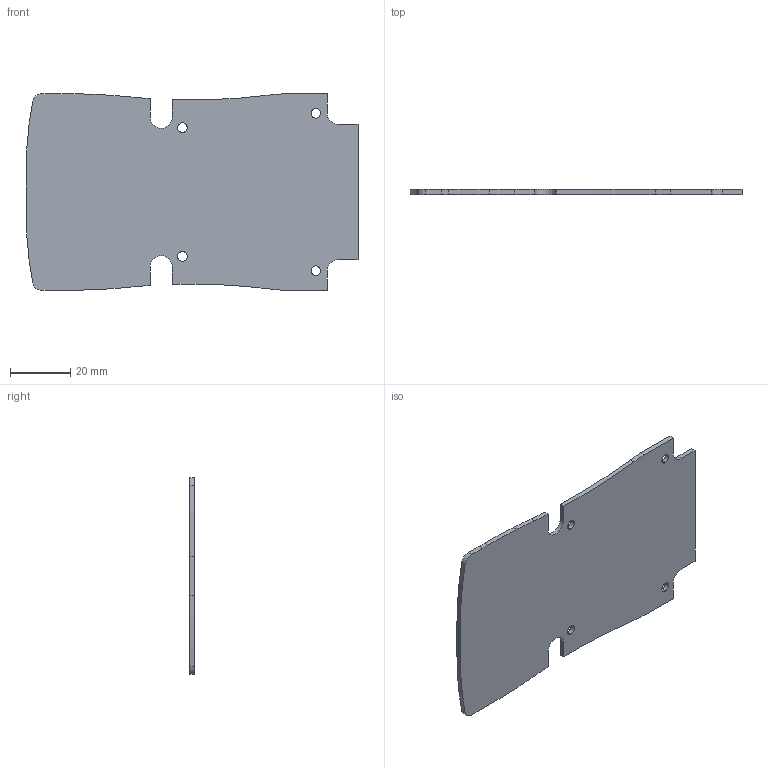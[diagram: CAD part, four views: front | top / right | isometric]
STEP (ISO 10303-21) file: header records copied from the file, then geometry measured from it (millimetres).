
FILE_DESCRIPTION (( 'STEP AP214' ), '1' );
FILE_NAME ('VM-24C-PCB.STEP', '2025-03-26T16:54:51', ( '' ), ( '' ), 'SwSTEP 2.0', 'SolidWorks 2025', '' );
FILE_SCHEMA (( 'AUTOMOTIVE_DESIGN' ));
Length unit declared in the file: inch
Products named in the file (1): VM-24C-PCB
Bounding box: 110.59 x 1.6 x 65.48 mm (x, y, z)
Volume: 10653.9 mm3; surface area: 13979.6 mm2
Topology: 1 solids, 1 shells, 45 faces, 129 edges, 86 vertices
Faces by surface type: cylinder 29, plane 16
Entity records: 1544 total; most frequent: DIRECTION 279, CARTESIAN_POINT 261, ORIENTED_EDGE 258, EDGE_CURVE 129, AXIS2_PLACEMENT_3D 104, VERTEX_POINT 86, LINE 71, VECTOR 71
